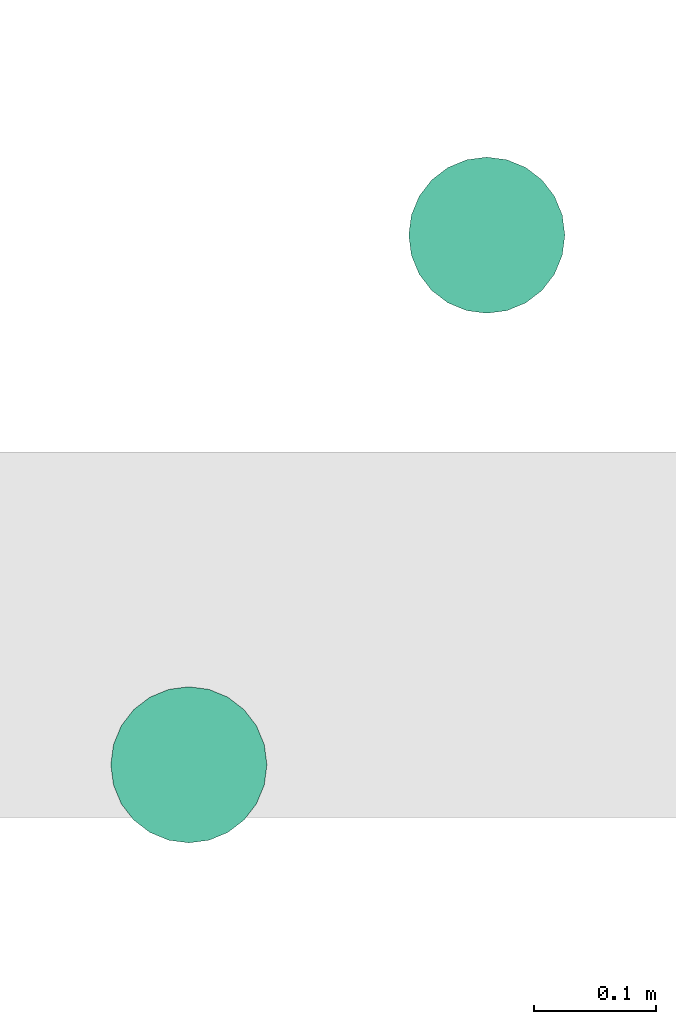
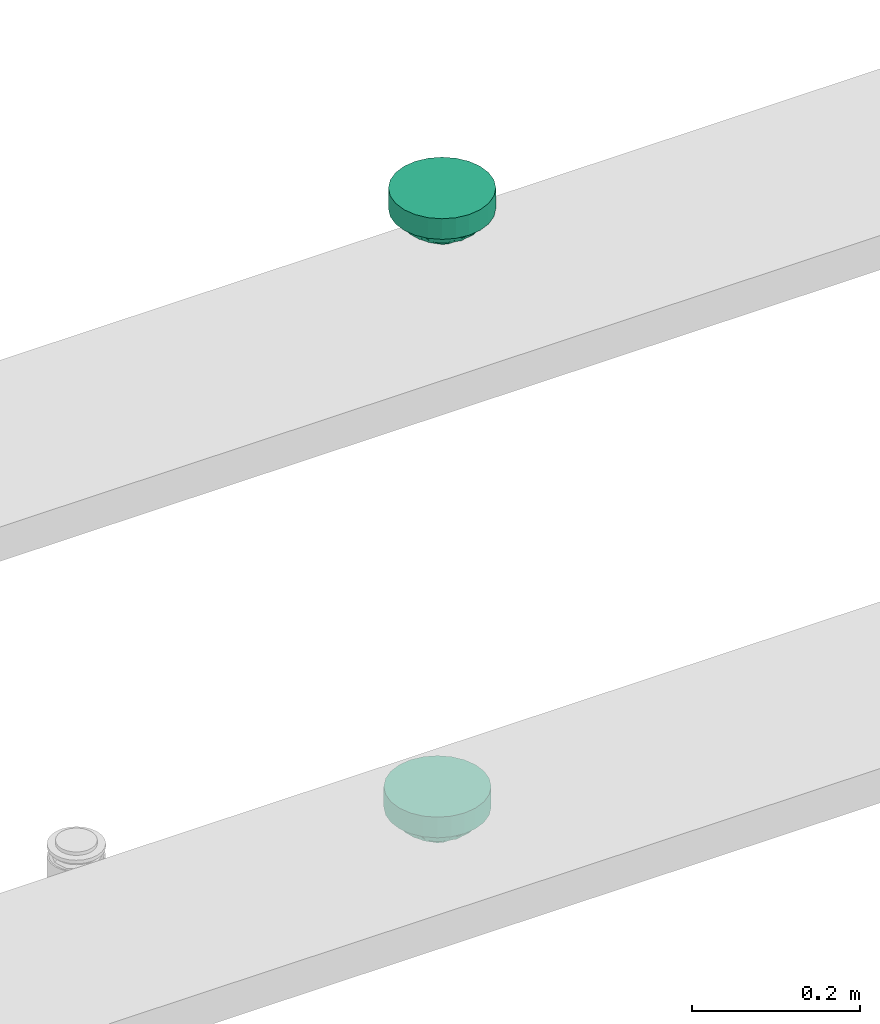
# One storey, part 62 of 153: 2 flow terminals.
"""IFC2X3 building model written with IfcOpenShell, lengths in metres."""

from ifc_helpers import new_model, entity, si_unit, converted_unit, derived_unit, direction, frame, origin, place, context, subcontext, project, spatial, faceted_brep, source, transform, mapped, type_object, type_shapes, element, save


model = new_model("IFC2X3")

# Units and contexts
model_context = context("Model", 3, precision=1e-05, world=origin(), true_north=direction((6.12303176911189e-17, 1.0)))
body_context = subcontext(model_context, "Body", "Model", "MODEL_VIEW")
ifc_project = project(units=[si_unit("LENGTHUNIT", "METRE"), si_unit("AREAUNIT", "SQUARE_METRE"), si_unit("VOLUMEUNIT", "CUBIC_METRE"), converted_unit("PLANEANGLEUNIT", "DEGREE", entity("IfcRatioMeasure", 0.0174532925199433), si_unit("PLANEANGLEUNIT", "RADIAN"), dimensions=[0, 0, 0, 0, 0, 0, 0]), si_unit("MASSUNIT", "GRAM", prefix="KILO"), derived_unit("MASSDENSITYUNIT", [(si_unit("MASSUNIT", "GRAM", prefix="KILO"), 1), (si_unit("LENGTHUNIT", "METRE"), -3)]), si_unit("TIMEUNIT", "SECOND"), si_unit("FREQUENCYUNIT", "HERTZ"), si_unit("THERMODYNAMICTEMPERATUREUNIT", "DEGREE_CELSIUS"), derived_unit("THERMALTRANSMITTANCEUNIT", [(si_unit("MASSUNIT", "GRAM", prefix="KILO"), 1), (si_unit("THERMODYNAMICTEMPERATUREUNIT", "KELVIN"), -1), (si_unit("TIMEUNIT", "SECOND"), -3)]), derived_unit("VOLUMETRICFLOWRATEUNIT", [(si_unit("LENGTHUNIT", "METRE"), 3), (si_unit("TIMEUNIT", "SECOND"), -1)]), si_unit("ELECTRICCURRENTUNIT", "AMPERE"), si_unit("ELECTRICVOLTAGEUNIT", "VOLT"), si_unit("POWERUNIT", "WATT"), si_unit("FORCEUNIT", "NEWTON"), si_unit("ILLUMINANCEUNIT", "LUX"), si_unit("LUMINOUSFLUXUNIT", "LUMEN"), si_unit("LUMINOUSINTENSITYUNIT", "CANDELA"), derived_unit("USERDEFINED", [(si_unit("MASSUNIT", "GRAM", prefix="KILO"), -1), (si_unit("LENGTHUNIT", "METRE"), -2), (si_unit("TIMEUNIT", "SECOND"), 3), (si_unit("LUMINOUSFLUXUNIT", "LUMEN"), 1)]), derived_unit("LINEARVELOCITYUNIT", [(si_unit("LENGTHUNIT", "METRE"), 1), (si_unit("TIMEUNIT", "SECOND"), -1)]), si_unit("PRESSUREUNIT", "PASCAL"), derived_unit("USERDEFINED", [(si_unit("LENGTHUNIT", "METRE"), -2), (si_unit("MASSUNIT", "GRAM", prefix="KILO"), 1), (si_unit("TIMEUNIT", "SECOND"), -2)])], contexts=[model_context])

# Site, building, storey
site_placement = place(None, origin())
site = spatial("IfcSite", under=ifc_project, at=site_placement, Name="Default", CompositionType="ELEMENT")
building_placement = place(site_placement, origin())
building = spatial("IfcBuilding", under=site, at=building_placement, CompositionType="ELEMENT")
storey_placement = place(building_placement, frame((0.0, 0.0, -4.62)))
storey = spatial("IfcBuildingStorey", under=building, at=storey_placement, Name="S02", CompositionType="ELEMENT", Elevation=-4.62)

# Flow terminals
light_fixture_type = type_object("IfcLightFixtureType", Name="Détecteur 360°", PredefinedType="NOTDEFINED")
shared_shape = source(origin(), body_context, "Body", "Brep", [
    faceted_brep([(0.0, -0.0397165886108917, 0.0531256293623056), (0.0, -0.034524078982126, 0.0563702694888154), (-0.0175153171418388, -0.0435914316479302, 0.0478512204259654), (-0.0194029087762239, -0.000878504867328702, 0.0644483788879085), (0.0, 0.0, 0.0669999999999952), (0.0, 0.00603476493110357, 0.0659648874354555), (-0.0174057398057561, -0.0159851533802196, 0.0630502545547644), (-0.0366619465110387, -0.0127227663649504, 0.0549213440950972), (-0.026998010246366, -0.0195753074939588, 0.0584711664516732), (-0.0202403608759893, -0.0335607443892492, 0.054639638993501), (-0.0359767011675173, -0.0348394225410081, 0.0444249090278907), (-0.0276843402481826, -0.0401006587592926, 0.0459804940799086), (-0.0133088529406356, -0.0517577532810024, 0.0400582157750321), (-0.0172617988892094, -0.0486391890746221, 0.042533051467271), (-0.0256912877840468, -0.0533485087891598, 0.0299999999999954), (-0.0462941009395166, -0.0369183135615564, 0.0299999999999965), (0.0, -0.0241390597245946, 0.0628595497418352), (-0.0186245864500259, -0.0267295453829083, 0.0589100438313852), (-0.0139070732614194, -0.0374370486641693, 0.0540817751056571), (0.0, 0.0449090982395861, 0.049880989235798), (-0.0172618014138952, 0.0486391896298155, 0.0425330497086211), (0.0, 0.0397165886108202, 0.0531256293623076), (-0.0186245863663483, 0.0267295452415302, 0.0589100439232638), (-0.0202403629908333, 0.0335607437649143, 0.054639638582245), (-0.0353547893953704, 0.0284533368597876, 0.0494330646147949), (0.0, 0.0120695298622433, 0.0649297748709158), (-0.0249385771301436, 0.0204731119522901, 0.0590841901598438), (-0.0191783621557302, 0.0150189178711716, 0.062775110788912), (-0.0465404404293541, -0.0196510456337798, 0.0438984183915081), (-0.052010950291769, -0.0250471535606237, 0.029999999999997), (-0.0453471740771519, -0.0286501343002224, 0.0397747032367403), (-0.0365036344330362, -0.0226255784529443, 0.0516441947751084), (-0.0175153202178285, 0.0435914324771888, 0.0478512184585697), (-0.0359926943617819, 0.0451334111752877, 0.0299999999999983), (-0.0276843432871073, 0.0401006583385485, 0.0459804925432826), (-0.00849704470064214, -0.0572729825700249, 0.0299999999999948), (0.0, -0.0592123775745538, 0.0299999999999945), (0.0, -0.0545512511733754, 0.0364787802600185), (0.0, -0.049890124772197, 0.0429575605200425), (-0.0169940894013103, -0.055333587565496, 0.0299999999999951), (-0.0359767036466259, 0.0348394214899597, 0.0444249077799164), (-0.025691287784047, 0.0533485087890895, 0.0299999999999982), (-0.0308419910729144, 0.0492409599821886, 0.0299999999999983), (-0.0130265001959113, 0.0514867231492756, 0.040526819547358), (-0.0169940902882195, 0.0553335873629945, 0.029999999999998), (0.0, 0.0498901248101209, 0.0429575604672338), (-0.0353547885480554, -0.0284533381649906, 0.0494330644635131), (0.0, 0.0181042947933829, 0.0638946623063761), (-0.0473669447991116, -0.00128092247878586, 0.0474310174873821), (-0.0485435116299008, -0.00908961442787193, 0.0452357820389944), (-0.0366597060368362, -0.0032867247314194, 0.0563153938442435), (-0.0226425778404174, -0.0107553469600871, 0.0624973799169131), (0.0, -0.00603476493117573, 0.0659648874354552), (0.0, 0.0293315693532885, 0.0596149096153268), (-0.0139070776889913, 0.0374370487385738, 0.0540817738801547), (-0.0449600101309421, 0.018422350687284, 0.0461366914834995), (-0.0453471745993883, 0.0286501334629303, 0.0397747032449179), (-0.0476906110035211, 0.00670602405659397, 0.0466053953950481), (-0.0577277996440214, 0.0131759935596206, 0.0299999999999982), (-0.0577277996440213, 0.00658799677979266, 0.029999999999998), (-0.0577277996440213, 0.0, 0.0299999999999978), (0.0, -0.0449090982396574, 0.0498809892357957), (-0.0308419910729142, -0.049240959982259, 0.0299999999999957), (-0.0359926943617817, -0.0451334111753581, 0.029999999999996), (0.0, 0.0345240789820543, 0.0563702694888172), (-0.0411433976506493, 0.0410258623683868, 0.0299999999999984), (-0.0462941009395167, 0.0369183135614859, 0.0299999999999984), (-0.0491525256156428, -0.03098273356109, 0.0299999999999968), (-0.0577277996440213, -0.0131759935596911, 0.0299999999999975), (0.0, -0.018104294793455, 0.0638946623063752), (-0.0377433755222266, 0.0044838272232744, 0.0554913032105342), (-0.0577277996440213, -0.00658799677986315, 0.0299999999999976), (-0.0385149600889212, 0.0124844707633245, 0.0536578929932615), (-0.0491525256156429, 0.0309827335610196, 0.0299999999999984), (-0.0548693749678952, 0.0191115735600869, 0.0299999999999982), (0.0, 0.0241390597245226, 0.0628595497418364), (-0.014625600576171, 0.0100436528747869, 0.0649170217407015), (-0.0271766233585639, 0.00920278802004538, 0.0609170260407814), (0.0, -0.0120695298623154, 0.0649297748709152), (-0.0520109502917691, 0.0250471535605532, 0.0299999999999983), (-0.0411433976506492, -0.0410258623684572, 0.0299999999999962), (-0.0548693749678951, -0.0191115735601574, 0.0299999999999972), (0.0, -0.0293315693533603, 0.0596149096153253), (0.0, 0.0545512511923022, 0.0364787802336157), (0.0, 0.0592123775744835, 0.0299999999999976), (-0.00849704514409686, 0.057272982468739, 0.0299999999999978), (-0.0127455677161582, 0.0563032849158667, 0.0299999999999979), (-0.0213426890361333, 0.054341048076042, 0.0299999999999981), (0.0175153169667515, 0.0435914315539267, 0.0478512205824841), (0.0194029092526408, 0.000878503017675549, 0.0644483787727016), (0.017405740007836, 0.0159851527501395, 0.0630502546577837), (0.0366619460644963, 0.012722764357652, 0.0549213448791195), (0.0269980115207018, 0.0195753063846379, 0.0584711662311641), (0.0202403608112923, 0.0335607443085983, 0.0546396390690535), (0.0359767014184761, 0.0348394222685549, 0.0444249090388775), (0.0276843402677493, 0.0401006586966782, 0.0459804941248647), (0.0133088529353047, 0.0517577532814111, 0.0400582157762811), (0.0172617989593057, 0.0486391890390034, 0.0425330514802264), (0.0256912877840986, 0.0533485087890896, 0.0299999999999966), (0.0462941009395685, 0.0369183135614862, 0.0299999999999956), (0.00849704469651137, 0.0572729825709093, 0.0299999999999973), (0.0169940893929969, 0.0553335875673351, 0.029999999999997), (0.0172617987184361, -0.0486391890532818, 0.0425330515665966), (0.025691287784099, -0.0533485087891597, 0.0299999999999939), (0.0308419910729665, -0.0492409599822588, 0.0299999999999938), (0.0175153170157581, -0.0435914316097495, 0.0478512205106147), (0.0186245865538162, -0.0267295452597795, 0.0589100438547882), (0.0202403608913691, -0.03356074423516, 0.0546396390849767), (0.0353547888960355, -0.0284533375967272, 0.0494330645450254), (0.0249385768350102, -0.0204731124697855, 0.0590841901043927), (0.0191783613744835, -0.0150189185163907, 0.062775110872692), (0.0465404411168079, 0.0196510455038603, 0.0438984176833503), (0.0577277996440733, 0.0131759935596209, 0.0299999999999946), (0.0548693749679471, 0.0191115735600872, 0.0299999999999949), (0.0520109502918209, 0.0250471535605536, 0.0299999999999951), (0.0365036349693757, 0.0226255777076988, 0.0516441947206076), (0.0186245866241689, 0.0267295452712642, 0.0589100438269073), (0.0359926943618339, -0.0451334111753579, 0.0299999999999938), (0.0276843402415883, -0.0401006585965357, 0.0459804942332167), (0.0139070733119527, 0.0374370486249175, 0.0540817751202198), (0.0359767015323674, -0.0348394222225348, 0.044424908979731), (0.0226425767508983, 0.0107553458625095, 0.0624973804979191), (0.0169940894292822, -0.0553335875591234, 0.0299999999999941), (0.0130264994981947, -0.0514867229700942, 0.0405268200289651), (0.0453471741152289, 0.0286501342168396, 0.039774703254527), (0.0353547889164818, 0.0284533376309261, 0.0494330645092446), (0.0473669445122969, 0.00128092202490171, 0.0474310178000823), (0.0485435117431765, 0.00908961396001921, 0.0452357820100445), (0.0366597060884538, 0.00328672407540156, 0.0563153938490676), (0.0139070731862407, -0.0374370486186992, 0.0540817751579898), (0.0449600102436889, -0.018422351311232, 0.0461366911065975), (0.0453471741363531, -0.0286501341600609, 0.039774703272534), (0.0476906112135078, -0.00670602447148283, 0.046605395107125), (0.0577277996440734, -0.0131759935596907, 0.0299999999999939), (0.0577277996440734, -0.00658799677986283, 0.0299999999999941), (0.0577277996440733, 0.0, 0.0299999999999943), (0.0308419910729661, 0.0492409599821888, 0.0299999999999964), (0.0359926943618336, 0.0451334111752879, 0.0299999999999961), (0.0411433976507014, -0.041025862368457, 0.0299999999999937), (0.0462941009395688, -0.0369183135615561, 0.0299999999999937), (0.0491525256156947, 0.0309827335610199, 0.0299999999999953), (0.037743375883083, -0.00448382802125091, 0.0554913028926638), (0.0577277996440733, 0.00658799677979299, 0.0299999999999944), (0.0385149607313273, -0.0124844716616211, 0.0536578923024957), (0.049152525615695, -0.0309827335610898, 0.0299999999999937), (0.0548693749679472, -0.0191115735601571, 0.0299999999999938), (0.0146256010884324, -0.0100436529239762, 0.0649170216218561), (0.0271766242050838, -0.00920278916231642, 0.0609170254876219), (0.0520109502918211, -0.0250471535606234, 0.0299999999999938), (0.041143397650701, 0.0410258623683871, 0.0299999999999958), (0.00849704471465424, -0.0572729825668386, 0.0299999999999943), (0.0127455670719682, -0.056303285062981, 0.0299999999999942), (0.0213426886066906, -0.0543410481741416, 0.029999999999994), (0.0, 0.0, 0.0299999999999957)], [[[0, 1, 2]], [[3, 4, 5]], [[6, 7, 8]], [[9, 10, 11]], [[12, 13, 14]], [[10, 15, 11]], [[9, 16, 17]], [[18, 9, 11]], [[19, 20, 21]], [[22, 23, 24]], [[25, 26, 27]], [[28, 29, 30]], [[8, 31, 17]], [[32, 33, 34]], [[35, 36, 37, 38, 39]], [[23, 40, 24]], [[20, 41, 42]], [[19, 43, 20]], [[44, 43, 45]], [[20, 32, 21]], [[30, 10, 46]], [[22, 26, 47]], [[48, 49, 50]], [[3, 51, 52]], [[53, 54, 23]], [[55, 24, 56]], [[57, 58, 59, 60]], [[13, 61, 0]], [[13, 0, 2]], [[2, 62, 13]], [[18, 2, 1]], [[2, 11, 63]], [[32, 64, 21]], [[32, 42, 33]], [[34, 33, 65, 66]], [[20, 42, 32]], [[54, 32, 34]], [[28, 30, 31]], [[10, 67, 15]], [[49, 68, 28]], [[8, 17, 69]], [[7, 6, 51]], [[28, 31, 7]], [[57, 48, 70]], [[58, 57, 55]], [[48, 71, 49]], [[70, 48, 50]], [[3, 50, 51]], [[55, 26, 24]], [[72, 57, 70]], [[26, 55, 72]], [[56, 40, 73]], [[56, 74, 55]], [[47, 75, 22]], [[52, 4, 3]], [[7, 50, 49]], [[5, 76, 3]], [[70, 3, 77]], [[51, 78, 52]], [[26, 25, 47]], [[76, 25, 27]], [[23, 22, 75]], [[26, 22, 24]], [[53, 64, 54]], [[23, 34, 40]], [[66, 40, 34]], [[40, 66, 73]], [[56, 73, 79, 74]], [[72, 27, 26]], [[40, 56, 24]], [[23, 75, 53]], [[69, 17, 16]], [[78, 6, 69]], [[46, 10, 9]], [[46, 9, 17]], [[50, 7, 51]], [[30, 29, 67]], [[80, 63, 11, 15]], [[28, 68, 81, 29]], [[10, 30, 67]], [[30, 46, 31]], [[82, 18, 1]], [[82, 16, 9]], [[28, 7, 49]], [[12, 39, 38]], [[61, 13, 12]], [[83, 84, 85, 86, 44, 45]], [[43, 41, 20]], [[44, 87, 41, 43]], [[32, 54, 64]], [[23, 54, 34]], [[9, 18, 82]], [[2, 18, 11]], [[39, 12, 14]], [[38, 61, 12]], [[62, 2, 63]], [[62, 14, 13]], [[17, 31, 46]], [[7, 31, 8]], [[48, 60, 71]], [[71, 68, 49]], [[60, 48, 57]], [[3, 70, 50]], [[72, 70, 77]], [[72, 77, 27]], [[55, 57, 72]], [[74, 58, 55]], [[76, 27, 77]], [[3, 76, 77]], [[25, 76, 5]], [[69, 6, 8]], [[78, 51, 6]], [[45, 43, 19]], [[21, 64, 88]], [[89, 4, 52]], [[90, 91, 92]], [[93, 94, 95]], [[96, 97, 98]], [[94, 99, 95]], [[100, 84, 83, 45, 101]], [[102, 103, 104]], [[102, 105, 0]], [[106, 107, 108]], [[78, 109, 110]], [[111, 112, 113, 114]], [[92, 115, 116]], [[105, 117, 118]], [[119, 93, 95]], [[107, 120, 108]], [[89, 121, 5]], [[122, 123, 38]], [[61, 123, 102]], [[93, 75, 116]], [[124, 94, 125]], [[106, 109, 69]], [[126, 127, 128]], [[61, 102, 0]], [[82, 129, 107]], [[130, 108, 131]], [[132, 133, 134, 135]], [[97, 19, 21]], [[97, 21, 88]], [[88, 136, 97]], [[119, 88, 64]], [[88, 95, 137]], [[105, 1, 0]], [[105, 104, 117]], [[118, 117, 138, 139]], [[102, 104, 105]], [[129, 105, 118]], [[111, 124, 115]], [[94, 140, 99]], [[127, 112, 111]], [[92, 116, 47]], [[91, 90, 121]], [[111, 115, 91]], [[132, 126, 141]], [[133, 132, 130]], [[126, 142, 127]], [[141, 126, 128]], [[89, 128, 121]], [[130, 109, 108]], [[143, 132, 141]], [[109, 130, 143]], [[131, 120, 144]], [[131, 145, 130]], [[69, 16, 106]], [[5, 4, 89]], [[91, 128, 127]], [[52, 146, 89]], [[141, 89, 147]], [[121, 25, 5]], [[109, 78, 69]], [[146, 78, 110]], [[107, 106, 16]], [[109, 106, 108]], [[82, 1, 129]], [[107, 118, 120]], [[139, 120, 118]], [[120, 139, 144]], [[131, 144, 148, 145]], [[143, 110, 109]], [[120, 131, 108]], [[107, 16, 82]], [[47, 116, 75]], [[25, 90, 47]], [[125, 94, 93]], [[125, 93, 116]], [[128, 91, 121]], [[124, 114, 140]], [[149, 137, 95, 99]], [[111, 114, 124]], [[94, 124, 140]], [[124, 125, 115]], [[53, 119, 64]], [[53, 75, 93]], [[111, 91, 127]], [[96, 101, 45]], [[19, 97, 96]], [[37, 36, 150, 151, 122, 38]], [[123, 103, 102]], [[122, 152, 103, 123]], [[105, 129, 1]], [[107, 129, 118]], [[93, 119, 53]], [[88, 119, 95]], [[101, 96, 98]], [[45, 19, 96]], [[136, 88, 137]], [[136, 98, 97]], [[116, 115, 125]], [[91, 115, 92]], [[126, 135, 142]], [[142, 112, 127]], [[135, 126, 132]], [[89, 141, 128]], [[143, 141, 147]], [[143, 147, 110]], [[130, 132, 143]], [[145, 133, 130]], [[146, 110, 147]], [[89, 146, 147]], [[78, 146, 52]], [[47, 90, 92]], [[25, 121, 90]], [[38, 123, 61]], [[153, 66, 65]], [[153, 65, 33]], [[153, 33, 42]], [[153, 42, 41]], [[153, 41, 87]], [[153, 73, 66]], [[153, 79, 73]], [[153, 74, 79]], [[153, 58, 74]], [[153, 87, 44]], [[153, 44, 86]], [[153, 86, 85]], [[153, 85, 84]], [[153, 84, 100]], [[153, 59, 58]], [[153, 60, 59]], [[153, 71, 60]], [[153, 68, 71]], [[153, 81, 68]], [[153, 29, 81]], [[153, 67, 29]], [[153, 15, 67]], [[153, 80, 15]], [[153, 63, 80]], [[153, 62, 63]], [[153, 14, 62]], [[153, 39, 14]], [[153, 35, 39]], [[153, 36, 35]], [[153, 100, 101]], [[153, 101, 98]], [[153, 98, 136]], [[153, 136, 137]], [[153, 137, 149]], [[153, 149, 99]], [[153, 99, 140]], [[153, 140, 114]], [[153, 114, 113]], [[153, 113, 112]], [[153, 112, 142]], [[153, 150, 36]], [[153, 151, 150]], [[153, 122, 151]], [[153, 152, 122]], [[153, 103, 152]], [[153, 104, 103]], [[153, 117, 104]], [[153, 138, 117]], [[153, 139, 138]], [[153, 144, 139]], [[153, 148, 144]], [[153, 145, 148]], [[153, 133, 145]], [[153, 142, 135]], [[153, 135, 134]], [[153, 134, 133]]]),
    faceted_brep([(0.0165644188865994, -0.0618192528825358, 0.029999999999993), (0.0320000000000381, -0.0554256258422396, 0.0299999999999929), (0.0452548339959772, -0.0452548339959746, 0.0299999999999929), (0.0554256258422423, -0.0320000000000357, 0.029999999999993), (0.0618192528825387, -0.016564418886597, 0.0299999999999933), (0.0640000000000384, 0.0, 0.0299999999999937), (0.0618192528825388, 0.016564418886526, 0.0299999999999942), (0.0554256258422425, 0.0319999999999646, 0.0299999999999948), (0.0452548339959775, 0.0452548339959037, 0.0299999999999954), (0.0320000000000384, 0.0554256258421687, 0.0299999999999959), (0.0165644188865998, 0.061819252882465, 0.0299999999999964), (0.0, 0.0639999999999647, 0.0299999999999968), (-0.0165644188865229, 0.061819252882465, 0.0299999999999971), (-0.0319999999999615, 0.0554256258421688, 0.0299999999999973), (-0.0452548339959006, 0.0452548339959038, 0.0299999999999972), (-0.0554256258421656, 0.0319999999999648, 0.0299999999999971), (-0.0618192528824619, 0.0165644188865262, 0.0299999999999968), (-0.0639999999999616, 0.0, 0.0299999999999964), (-0.061819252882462, -0.0165644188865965, 0.0299999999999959), (-0.0554256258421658, -0.0320000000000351, 0.0299999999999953), (-0.0452548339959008, -0.0452548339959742, 0.0299999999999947), (-0.0319999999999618, -0.0554256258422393, 0.0299999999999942), (-0.0165644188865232, -0.0618192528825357, 0.0299999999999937), (0.0, -0.0640000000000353, 0.0299999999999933), (0.0165644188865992, 0.0618192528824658, 0.0), (0.0320000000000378, 0.0554256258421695, 0.0), (0.0452548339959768, 0.0452548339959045, 0.0), (0.0554256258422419, 0.0319999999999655, 0.0), (0.0618192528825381, 0.0165644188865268, 0.0), (0.0640000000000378, 0.0, 0.0), (0.061819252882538, -0.0165644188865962, 0.0), (0.0554256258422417, -0.0320000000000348, 0.0), (0.0452548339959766, -0.0452548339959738, 0.0), (0.0320000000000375, -0.0554256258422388, 0.0), (0.0165644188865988, -0.061819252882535, 0.0), (0.0, -0.0640000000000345, 0.0), (-0.0165644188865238, -0.0618192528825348, 0.0), (-0.0319999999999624, -0.0554256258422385, 0.0), (-0.0452548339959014, -0.0452548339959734, 0.0), (-0.0554256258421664, -0.0320000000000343, 0.0), (-0.0618192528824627, -0.0165644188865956, 0.0), (-0.0639999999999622, 0.0, 0.0), (-0.0618192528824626, 0.016564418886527, 0.0), (-0.0554256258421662, 0.0319999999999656, 0.0), (-0.0452548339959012, 0.0452548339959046, 0.0), (-0.0319999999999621, 0.0554256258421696, 0.0), (-0.0165644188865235, 0.0618192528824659, 0.0), (0.0, 0.0639999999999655, 0.0)], [[[0, 1, 2, 3, 4, 5, 6, 7, 8, 9, 10, 11, 12, 13, 14, 15, 16, 17, 18, 19, 20, 21, 22, 23]], [[24, 25, 26, 27, 28, 29, 30, 31, 32, 33, 34, 35, 36, 37, 38, 39, 40, 41, 42, 43, 44, 45, 46, 47]], [[40, 18, 17, 41]], [[39, 19, 18, 40]], [[21, 20, 38, 37]], [[39, 38, 20, 19]], [[22, 21, 37, 36]], [[23, 22, 36, 35]], [[34, 0, 23, 35]], [[33, 1, 0, 34]], [[3, 2, 32, 31]], [[33, 32, 2, 1]], [[4, 3, 31, 30]], [[5, 4, 30, 29]], [[28, 6, 5, 29]], [[27, 7, 6, 28]], [[9, 8, 26, 25]], [[27, 26, 8, 7]], [[10, 9, 25, 24]], [[11, 10, 24, 47]], [[46, 12, 11, 47]], [[45, 13, 12, 46]], [[42, 41, 17, 16]], [[44, 14, 13, 45]], [[43, 15, 14, 44]], [[43, 42, 16, 15]]]),
])
type_shapes(light_fixture_type, [shared_shape])
for number, where, z_axis, x_axis in (
    (1, (41.7597436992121, -194.063320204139, 3.40099999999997), (0.0, 0.0, -1.0), (1.0, 0.0, 0.0)),
    (2, (41.5154544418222, -194.497539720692, 4.62), (0.0, 0.0, -1.0), (1.0, 0.0, 0.0)),
):
    element("IfcFlowTerminal", number, at=place(storey_placement, frame(where, z_axis=z_axis, x_axis=x_axis)), inside=storey, type_object=light_fixture_type, Name="INT - Détecteur 360°:Détecteur 360°", ObjectType="INT - Détecteur 360°:Détecteur 360°", context=body_context, shape_type="MappedRepresentation", body=[
        mapped(shared_shape, transform((0.0, 0.0, 0.0), scale=1.0)),
    ])

save(model, "model.ifc")
